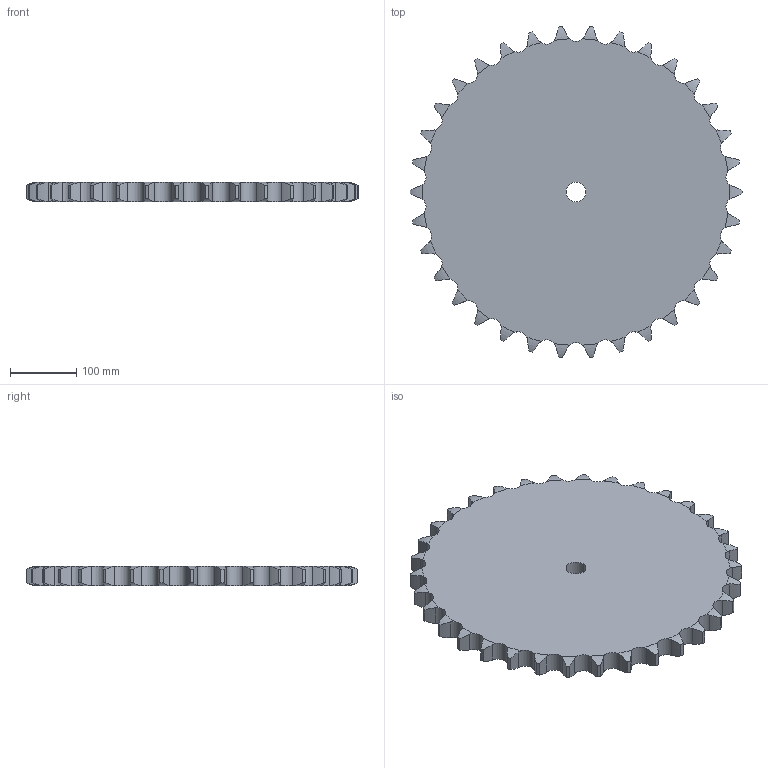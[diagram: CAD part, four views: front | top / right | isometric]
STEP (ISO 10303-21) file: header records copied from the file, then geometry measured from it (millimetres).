
FILE_DESCRIPTION((''),'2;1');
FILE_NAME('500-751-0034_PRT','2021-02-12T',('Brieden'),('Brieden'),'PRO/ENGINEER BY PARAMETRIC TECHNOLOGY CORPORATION, 2010160','PRO/ENGINEER BY PARAMETRIC TECHNOLOGY CORPORATION, 2010160','');
FILE_SCHEMA(('AUTOMOTIVE_DESIGN { 1 0 10303 214 1 1 1 1 }'));
Length unit declared in the file: millimetre
Products named in the file (1): 500-751-0034_PRT
Bounding box: 500 x 498.29 x 29.4 mm (x, y, z)
Volume: 5091649.7 mm3; surface area: 414567.4 mm2
Topology: 1 solids, 1 shells, 208 faces, 618 edges, 412 vertices
Faces by surface type: cylinder 138, torus 68, plane 2
Entity records: 10614 total; most frequent: CARTESIAN_POINT 3441, ORIENTED_EDGE 1236, DIRECTION 970, PRESENTATION_STYLE_ASSIGNMENT 619, STYLED_ITEM 619, CURVE_STYLE 618, EDGE_CURVE 618, AXIS2_PLACEMENT_3D 416
